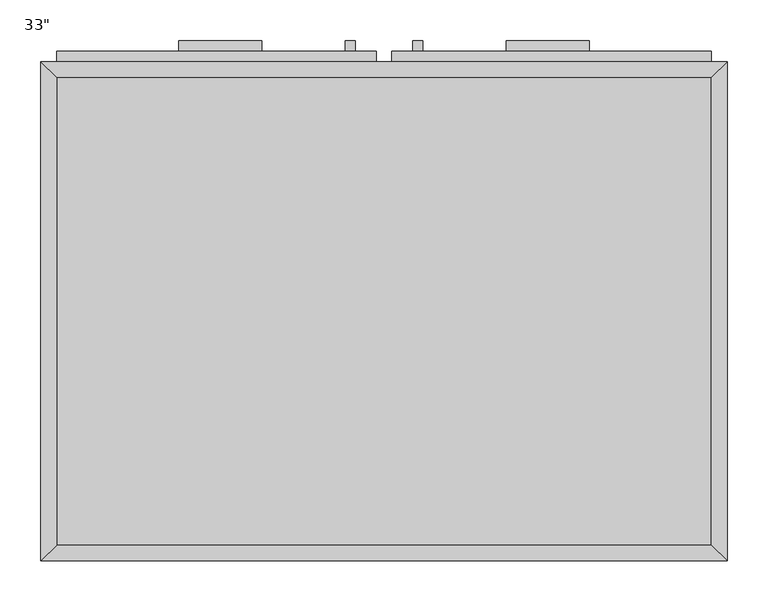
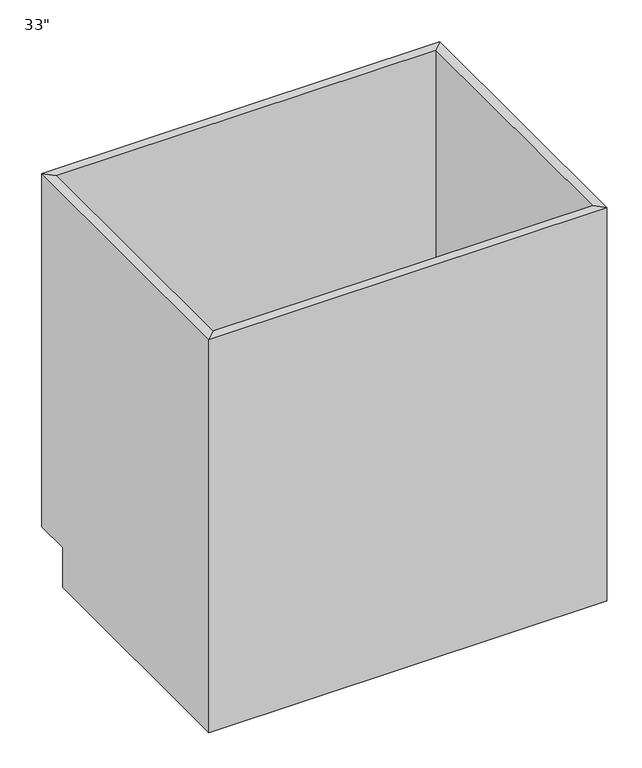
"""IFC4 building model written with IfcOpenShell, lengths in millimetres: furniture geometry."""

from ifc_helpers import new_model, si_unit, frame, origin, place, context, project, spatial, polyline, outline, extrude, faceted_brep, source, transform, mapped, element, save


def furniture_b74d3f52(model_context):
    return source(origin(), model_context, "Body", "SolidModel", [
        faceted_brep([(418.7877049, 590.55, 876.3), (-381.3122951, 590.55, 876.3), (-381.3122951, 590.55, 88.9), (418.7877049, 590.55, 88.9), (437.8377049, 609.6, 876.3), (-400.3622951, 609.6, 876.3), (437.8377049, 609.6, 88.9), (-400.3622951, 609.6, 88.9), (-381.3122951, 19.05, 876.3), (-381.3122951, 19.05, 88.9), (-381.3122951, 533.4, 88.9), (-400.3622951, 0.0, 876.3), (-400.3622951, 533.4, 88.9), (-400.3622951, 533.4, 0.0), (-400.3622951, 0.0, 0.0), (418.7877049, 19.05, 876.3), (418.7877049, 19.05, 88.9), (437.8377049, 0.0, 876.3), (437.8377049, 0.0, 0.0), (418.7877049, 533.4, 88.9), (437.8377049, 533.4, 0.0), (437.8377049, 533.4, 88.9)], [[[0, 1, 2, 3]], [[0, 4, 5, 1]], [[4, 6, 7, 5]], [[2, 7, 6, 3]], [[1, 8, 9, 10, 2]], [[5, 11, 8, 1]], [[7, 12, 13, 14, 11, 5]], [[2, 10, 12, 7]], [[8, 15, 16, 9]], [[11, 17, 15, 8]], [[14, 18, 17, 11]], [[3, 19, 16, 15, 0]], [[0, 15, 17, 4]], [[4, 17, 18, 20, 21, 6]], [[6, 21, 19, 3]], [[10, 9, 16, 19]], [[18, 14, 13, 20]], [[13, 12, 10, 19, 21, 20]]]),
        extrude(outline(polyline([(-130.4872951, 635.0), (-130.4872951, 622.3), (-232.0872951, 622.3), (-232.0872951, 635.0), (-130.4872951, 635.0)])), frame((0.0, 0.0, 819.15), z_axis=(0.0, 0.0, 1.0), x_axis=(1.0, 0.0, 0.0)), (0.0, 0.0, 1.0), 12.7),
        extrude(outline(polyline([(269.5627049, 635.0), (269.5627049, 622.3), (167.9627049, 622.3), (167.9627049, 635.0), (269.5627049, 635.0)])), frame((0.0, 0.0, 819.15), z_axis=(0.0, 0.0, 1.0), x_axis=(1.0, 0.0, 0.0)), (0.0, 0.0, 1.0), 12.7),
        extrude(outline(polyline([(-16.1872951, 635.0), (-16.1872951, 622.3), (-28.8872951, 622.3), (-28.8872951, 635.0), (-16.1872951, 635.0)])), frame((0.0, 0.0, 596.9), z_axis=(0.0, 0.0, 1.0), x_axis=(1.0, 0.0, 0.0)), (0.0, 0.0, 1.0), 101.6),
        extrude(outline(polyline([(66.3627049, 635.0), (66.3627049, 622.3), (53.6627049, 622.3), (53.6627049, 635.0), (66.3627049, 635.0)])), frame((0.0, 0.0, 596.9), z_axis=(0.0, 0.0, 1.0), x_axis=(1.0, 0.0, 0.0)), (0.0, 0.0, 1.0), 101.6),
        extrude(outline(polyline([(418.7877049, 19.05), (-381.3122951, 19.05), (-381.3122951, 590.55), (418.7877049, 590.55), (418.7877049, 19.05)])), frame((0.0, 0.0, 88.9), z_axis=(0.0, 0.0, 1.0), x_axis=(1.0, 0.0, 0.0)), (0.0, 0.0, 1.0), 19.05),
        extrude(outline(polyline([(9.2127049, 622.3), (9.2127049, 609.6), (-381.3122951, 609.6), (-381.3122951, 622.3), (9.2127049, 622.3)])), frame((0.0, 0.0, 755.65), z_axis=(0.0, 0.0, 1.0), x_axis=(1.0, 0.0, 0.0)), (0.0, 0.0, 1.0), 101.6),
        extrude(outline(polyline([(418.7877049, 622.3), (418.7877049, 609.6), (28.2627049, 609.6), (28.2627049, 622.3), (418.7877049, 622.3)])), frame((0.0, 0.0, 755.65), z_axis=(0.0, 0.0, 1.0), x_axis=(1.0, 0.0, 0.0)), (0.0, 0.0, 1.0), 101.6),
        extrude(outline(polyline([(9.2127049, 622.3), (9.2127049, 609.6), (-381.3122951, 609.6), (-381.3122951, 622.3), (9.2127049, 622.3)])), frame((0.0, 0.0, 107.95), z_axis=(0.0, 0.0, 1.0), x_axis=(1.0, 0.0, 0.0)), (0.0, 0.0, 1.0), 628.65),
        extrude(outline(polyline([(418.7877049, 622.3), (418.7877049, 609.6), (28.2627049, 609.6), (28.2627049, 622.3), (418.7877049, 622.3)])), frame((0.0, 0.0, 107.95), z_axis=(0.0, 0.0, 1.0), x_axis=(1.0, 0.0, 0.0)), (0.0, 0.0, 1.0), 628.65),
    ])


if __name__ == "__main__":
    model = new_model("IFC4")
    model_context = context("Model", 3, world=origin())
    ifc_project = project(units=[si_unit("LENGTHUNIT", "METRE", prefix="MILLI")], contexts=[model_context])
    site = spatial("IfcSite", under=ifc_project)
    building = spatial("IfcBuilding", under=site)
    placement = place(None, origin())
    furniture_shape = furniture_b74d3f52(model_context)
    element("IfcFurniture", 1, ObjectType="Base Cabinet-Double Door & 2 Drawer : 33\"", at=placement, inside=building, context=model_context, shape_type="MappedRepresentation", body=[
        mapped(furniture_shape, transform((0.0, 0.0, 0.0), x_axis=(1.0, 0.0, 0.0), y_axis=(0.0, 1.0, 0.0), z_axis=(0.0, 0.0, 1.0))),
    ])
    save(model, "model.ifc")
